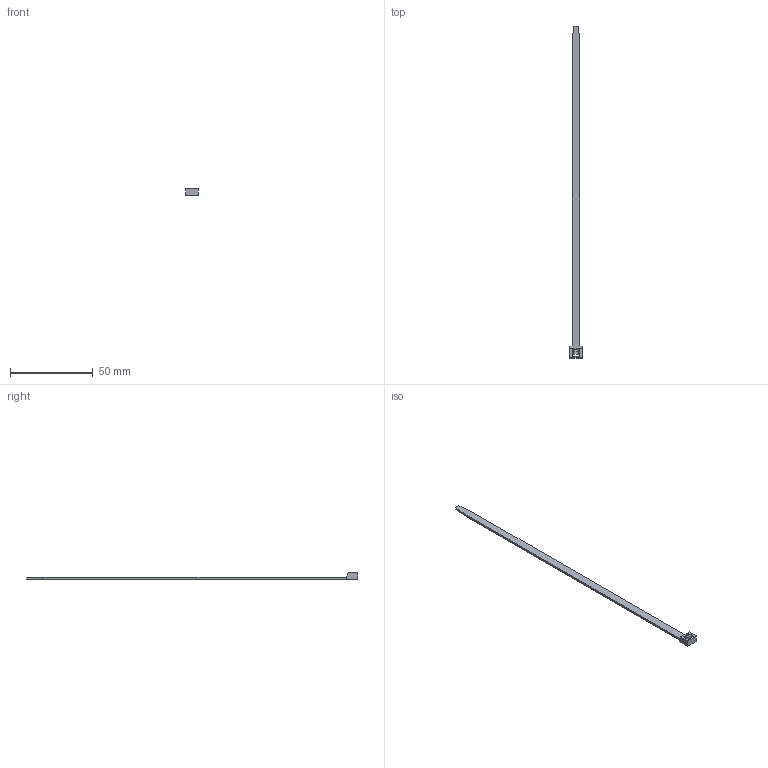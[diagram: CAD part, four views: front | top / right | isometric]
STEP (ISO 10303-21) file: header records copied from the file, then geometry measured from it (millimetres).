
FILE_DESCRIPTION (( 'STEP AP214' ), '1' );
FILE_NAME ('278240 OptiKit CT-X-N-4,8õ200.STEP', '2020-05-25T10:38:30', ( '' ), ( '' ), 'SwSTEP 2.0', 'SolidWorks 2018', '' );
FILE_SCHEMA (( 'AUTOMOTIVE_DESIGN' ));
Length unit declared in the file: millimetre
Products named in the file (1): 278240 OptiKit CT-X-N-4,8õ200
Bounding box: 7.4 x 200 x 4 mm (x, y, z)
Volume: 1177.2 mm3; surface area: 2875.8 mm2
Topology: 1 solids, 1 shells, 663 faces, 1976 edges, 1316 vertices
Faces by surface type: plane 663
Entity records: 21816 total; most frequent: CARTESIAN_POINT 3956, ORIENTED_EDGE 3952, DIRECTION 3304, LINE 1976, EDGE_CURVE 1976, VECTOR 1976, VERTEX_POINT 1316, EDGE_LOOP 666
